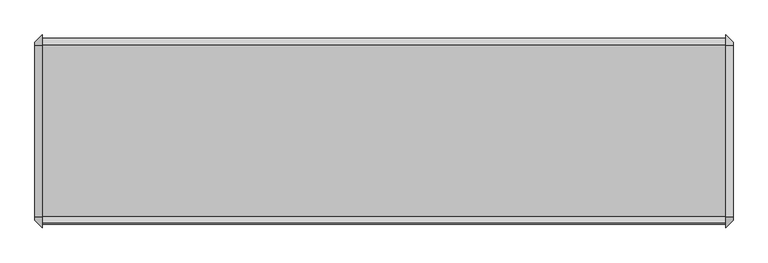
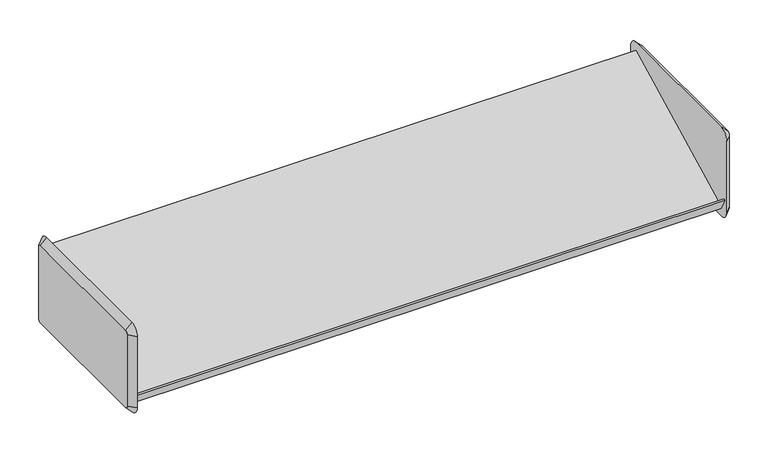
"""IFC4 building model written with IfcOpenShell, lengths in millimetres: furniture geometry."""

from ifc_helpers import new_model, si_unit, frame, origin, place, context, project, spatial, polyline, circle_curve, outline, extrude, source, transform, mapped, element, save
from ifc_brep_helpers import plane_surface, revolved_surface, advanced_brep


def furniture_439dfb7c(model_context):
    return source(origin(), model_context, "Body", "SolidModel", [
        advanced_brep(
        [(485.6579955, 161.925, 1511.3), (485.6579955, -136.525, 1511.3), (485.6579955, -142.875, 1504.95), (485.6579955, -142.875, 1352.55), (485.6579955, -136.525, 1346.2), (485.6579955, 161.925, 1346.2), (485.6579955, 168.275, 1352.55), (485.6579955, 168.275, 1504.95), (472.9579955, 161.925, 1524.0), (472.9579955, 180.975, 1504.95), (472.9579955, 180.975, 1352.55), (472.9579955, 161.925, 1333.5), (472.9579955, -136.525, 1333.5), (472.9579955, -155.575, 1352.55), (472.9579955, -155.575, 1504.95), (472.9579955, -136.525, 1524.0)],
        [
            (0, 1),
            (1, 2, circle_curve(frame((485.6579955, -136.525, 1504.95), z_axis=(1.0, 2.0730084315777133e-12, -2.152944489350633e-12), x_axis=(2.152910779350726e-12, 0.0, 1.0)), 6.35)),
            (2, 3),
            (3, 4, circle_curve(frame((485.6579955, -136.525, 1352.55), z_axis=(1.0, 2.059685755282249e-12, 2.067679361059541e-12), x_axis=(2.059647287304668e-12, -1.0, 0.0)), 6.35)),
            (4, 5),
            (5, 6, circle_curve(frame((485.6579955, 161.925, 1352.55), z_axis=(1.0, 2.0889956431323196e-12, -2.0889956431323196e-12), x_axis=(-2.089008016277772e-12, 0.0, -1.0)), 6.35)),
            (6, 7),
            (7, 0, circle_curve(frame((485.6579955, 161.925, 1504.95), z_axis=(1.0, 2.078337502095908e-12, 2.003730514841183e-12), x_axis=(-2.078331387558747e-12, 1.0, 0.0)), 6.35)),
            (8, 9, circle_curve(frame((472.9579955, 161.925, 1504.95), z_axis=(-1.0, -2.078337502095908e-12, -2.003730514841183e-12), x_axis=(-2.078331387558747e-12, 1.0, 0.0)), 19.05)),
            (9, 10),
            (10, 11, circle_curve(frame((472.9579955, 161.925, 1352.55), z_axis=(-1.0, -2.0889956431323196e-12, 2.0889956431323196e-12), x_axis=(-2.089008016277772e-12, 0.0, -1.0)), 19.05)),
            (11, 12),
            (12, 13, circle_curve(frame((472.9579955, -136.525, 1352.55), z_axis=(-1.0, -2.059685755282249e-12, -2.067679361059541e-12), x_axis=(2.059647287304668e-12, -1.0, 0.0)), 19.05)),
            (13, 14),
            (14, 15, circle_curve(frame((472.9579955, -136.525, 1504.95), z_axis=(-1.0, -2.0730084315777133e-12, 2.152944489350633e-12), x_axis=(2.152910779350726e-12, 0.0, 1.0)), 19.05)),
            (15, 8),
            (15, 1),
            (0, 8),
            (14, 2),
            (13, 3),
            (12, 4),
            (11, 5),
            (10, 6),
            (9, 7),
        ],
        [
            plane_surface(frame((485.6579955, 12.7, 1428.75), z_axis=(1.0, 0.0, 0.0), x_axis=(0.0, -1.0, 0.0))),
            plane_surface(frame((472.9579955, 12.7, 1428.75), z_axis=(-1.0, 0.0, 0.0), x_axis=(0.0, -1.0, 0.0))),
            plane_surface(frame((472.9579955, 12.7, 1524.0), z_axis=(0.707106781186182, 0.0, 0.7071067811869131), x_axis=(0.0, -1.0, 0.0))),
            revolved_surface(polyline([(485.6579955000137, -136.525, 1511.2999999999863), (472.9579955, -136.525, 1524.0)]), (492.0079955, -136.525, 1504.95), (-1.0, -2.0730084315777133e-12, 2.152944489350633e-12)),
            plane_surface(frame((472.9579955, -155.575, 1428.75), z_axis=(0.7071067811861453, -0.7071067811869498, 0.0), x_axis=(0.0, 0.0, -1.0))),
            revolved_surface(polyline([(485.6579955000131, -142.87499999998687, 1352.55), (472.9579954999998, -155.57500000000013, 1352.55)]), (492.0079955, -136.525, 1352.55), (-1.0, -2.059685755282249e-12, -2.067679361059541e-12)),
            plane_surface(frame((472.9579955, 12.7, 1333.5), z_axis=(0.707106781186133, 0.0, -0.707106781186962), x_axis=(0.0, 1.0, 0.0))),
            revolved_surface(polyline([(485.6579955, 161.925, 1346.2), (472.9579954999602, 161.925, 1333.4999999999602)]), (492.0079955, 161.925, 1352.55), (-1.0, -2.0889956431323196e-12, 2.0889956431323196e-12)),
            plane_surface(frame((472.9579955, 180.975, 1428.75), z_axis=(0.7071067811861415, 0.7071067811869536, 0.0), x_axis=(0.0, 0.0, 1.0))),
            revolved_surface(polyline([(485.6579955, 168.27499999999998, 1504.95), (472.95799549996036, 180.97500000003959, 1504.95)]), (492.0079955, 161.925, 1504.95), (-1.0, -2.078337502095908e-12, -2.003730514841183e-12)),
        ],
        [
            (0, [[1, 2, 3, 4, 5, 6, 7, 8]]),
            (1, [[9, 10, 11, 12, 13, 14, 15, 16]]),
            (2, [[-16, 17, -1, 18]]),
            (3, [[-15, 19, -2, -17]]),
            (4, [[-14, 20, -3, -19]]),
            (5, [[-13, 21, -4, -20]]),
            (6, [[-12, 22, -5, -21]]),
            (7, [[-11, 23, -6, -22]]),
            (8, [[-10, 24, -7, -23]]),
            (9, [[-9, -18, -8, -24]]),
        ],
    ),
        advanced_brep(
        [(-733.5420045, -136.525, 1511.3), (-733.5420045, 161.925, 1511.3), (-733.5420045, 168.275, 1504.95), (-733.5420045, 168.275, 1352.55), (-733.5420045, 161.925, 1346.2), (-733.5420045, -136.525, 1346.2), (-733.5420045, -142.875, 1352.55), (-733.5420045, -142.875, 1504.95), (-720.8420045, -136.525, 1524.0), (-720.8420045, -155.575, 1504.95), (-720.8420045, -155.575, 1352.55), (-720.8420045, -136.525, 1333.5), (-720.8420045, 161.925, 1333.5), (-720.8420045, 180.975, 1352.55), (-720.8420045, 180.975, 1504.95), (-720.8420045, 161.925, 1524.0)],
        [
            (0, 1),
            (1, 2, circle_curve(frame((-733.5420045, 161.925, 1504.95), z_axis=(-1.0, 0.0, 0.0), x_axis=(0.0, 0.0, 1.0)), 6.35)),
            (2, 3),
            (3, 4, circle_curve(frame((-733.5420045, 161.925, 1352.55), z_axis=(-1.0, 0.0, 0.0), x_axis=(0.0, 1.0, 0.0)), 6.35)),
            (4, 5),
            (5, 6, circle_curve(frame((-733.5420045, -136.525, 1352.55), z_axis=(-1.0, 0.0, 0.0), x_axis=(0.0, 0.0, -1.0)), 6.35)),
            (6, 7),
            (7, 0, circle_curve(frame((-733.5420045, -136.525, 1504.95), z_axis=(-1.0, 0.0, 0.0), x_axis=(0.0, -1.0, 0.0)), 6.35)),
            (8, 9, circle_curve(frame((-720.8420045, -136.525, 1504.95), z_axis=(1.0, 0.0, 0.0), x_axis=(0.0, -1.0, 0.0)), 19.05)),
            (9, 10),
            (10, 11, circle_curve(frame((-720.8420045, -136.525, 1352.55), z_axis=(1.0, 0.0, 0.0), x_axis=(0.0, 0.0, -1.0)), 19.05)),
            (11, 12),
            (12, 13, circle_curve(frame((-720.8420045, 161.925, 1352.55), z_axis=(1.0, 0.0, 0.0), x_axis=(0.0, 1.0, 0.0)), 19.05)),
            (13, 14),
            (14, 15, circle_curve(frame((-720.8420045, 161.925, 1504.95), z_axis=(1.0, 0.0, 0.0), x_axis=(0.0, 0.0, 1.0)), 19.05)),
            (15, 8),
            (15, 1),
            (0, 8),
            (14, 2),
            (13, 3),
            (12, 4),
            (11, 5),
            (10, 6),
            (9, 7),
        ],
        [
            plane_surface(frame((-733.5420045, 12.7, 1428.75), z_axis=(-1.0, 0.0, 0.0), x_axis=(0.0, -1.0, 0.0))),
            plane_surface(frame((-720.8420045, 12.7, 1428.75), z_axis=(1.0, 0.0, 0.0), x_axis=(0.0, -1.0, 0.0))),
            plane_surface(frame((-720.8420045, 12.7, 1524.0), z_axis=(-0.7071067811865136, 0.0, 0.7071067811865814), x_axis=(0.0, 1.0, 0.0))),
            revolved_surface(polyline([(-733.5420045, 161.925, 1511.3000000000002), (-720.8420045, 161.925, 1524.0)]), (-739.8920045, 161.925, 1504.95), (1.0, 0.0, 0.0)),
            plane_surface(frame((-720.8420045, 180.975, 1428.75), z_axis=(-0.7071067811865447, 0.7071067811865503, 0.0), x_axis=(0.0, 0.0, -1.0))),
            revolved_surface(polyline([(-733.5420045, 168.27500000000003, 1352.55), (-720.8420045, 180.975, 1352.55)]), (-739.8920045, 161.925, 1352.55), (1.0, 0.0, 0.0)),
            plane_surface(frame((-720.8420045, 12.7, 1333.5), z_axis=(-0.7071067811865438, 0.0, -0.7071067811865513), x_axis=(0.0, -1.0, 0.0))),
            revolved_surface(polyline([(-733.5420045, -136.525, 1346.1999999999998), (-720.8420045, -136.525, 1333.5)]), (-739.8920045, -136.525, 1352.55), (1.0, 0.0, 0.0)),
            plane_surface(frame((-720.8420045, -155.575, 1428.75), z_axis=(-0.7071067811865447, -0.7071067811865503, 0.0), x_axis=(0.0, 0.0, 1.0))),
            revolved_surface(polyline([(-733.5420045, -142.87500000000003, 1504.95), (-720.8420045, -155.575, 1504.95)]), (-739.8920045, -136.525, 1504.95), (1.0, 0.0, 0.0)),
        ],
        [
            (0, [[1, 2, 3, 4, 5, 6, 7, 8]]),
            (1, [[9, 10, 11, 12, 13, 14, 15, 16]]),
            (2, [[-16, 17, -1, 18]]),
            (3, [[-15, 19, -2, -17]]),
            (4, [[-14, 20, -3, -19]]),
            (5, [[-13, 21, -4, -20]]),
            (6, [[-12, 22, -5, -21]]),
            (7, [[-11, 23, -6, -22]]),
            (8, [[-10, 24, -7, -23]]),
            (9, [[-9, -18, -8, -24]]),
        ],
    ),
        extrude(outline(polyline([(-137.2094993, 1350.4179666), (-149.845093, 1374.8467844), (-147.0173828, 1376.2907216), (-135.8404765, 1354.6820334), (162.5893131, 1507.0717194), (175.2453599, 1483.4470972), (172.4171401, 1482.0028998), (161.2606869, 1502.8282806), (-137.2094993, 1350.4179666)])), frame((-720.8420045, 0.0, 0.0), z_axis=(1.0, 0.0, 0.0), x_axis=(0.0, 1.0, 0.0)), (0.0, 0.0, 1.0), 1193.8),
    ])


if __name__ == "__main__":
    model = new_model("IFC4")
    model_context = context("Model", 3, world=origin())
    ifc_project = project(units=[si_unit("LENGTHUNIT", "METRE", prefix="MILLI")], contexts=[model_context])
    site = spatial("IfcSite", under=ifc_project)
    building = spatial("IfcBuilding", under=site)
    placement = place(None, origin())
    furniture_shape = furniture_439dfb7c(model_context)
    element("IfcFurniture", 1, ObjectType="HermanMiller_ActionOffice_A3220_B-StyleStorageDisplay : Display 13\"D x 48\"W", at=placement, inside=building, context=model_context, shape_type="MappedRepresentation", body=[
        mapped(furniture_shape, transform((0.0, 0.0, 0.0), x_axis=(1.0, 0.0, 0.0), y_axis=(0.0, 1.0, 0.0), z_axis=(0.0, 0.0, 1.0))),
    ])
    save(model, "model.ifc")
